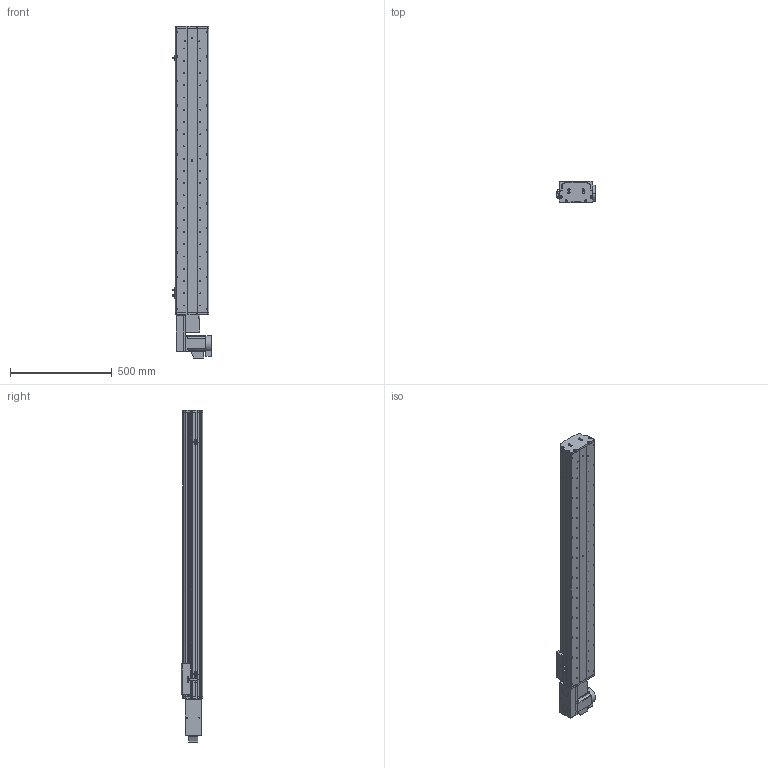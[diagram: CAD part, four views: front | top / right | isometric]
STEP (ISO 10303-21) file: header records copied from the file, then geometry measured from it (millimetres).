
FILE_DESCRIPTION (( 'STEP AP214' ), '1' );
FILE_NAME ('KSD165B-S1150-MLB-CM.STEP', '2017-10-16T06:25:47', ( '微软用户' ), ( '微软中国' ), 'SwSTEP 2.0', 'SolidWorks 2014', '' );
FILE_SCHEMA (( 'AUTOMOTIVE_DESIGN' ));
Length unit declared in the file: millimetre
Products named in the file (17): KSD165模组同步带-防撞垫1; KSD165耀郪-ヶ傷啣1-肮祭湍; KSD165模组-后端板1-同步带; KSD165模组-同步带滑动座-最新版; KSD165B-S1150-MLB-CM; HTPA26S5M250-A-H8 750W萇儂蚚; HTPA26S5M250-A-H8 400W萇儂蚚 ; 130宽模组马达安装板连板左右折同步带; 130宽模组保护罩上下左右折-同步带; 165宽马达安装板同步带左-改; KSD165模组-同步带防尘盖1-1150行程; KSD165模组同步带底板-1150行程; 拸秶雄ん750W侜督萇儂; U倰嫖萇假蚾璃; U倰嫖萇EEㄜSX672; 覜茼え68遵圉猾敕; KSD165模组-同步带-防撞垫2
Assembly tree (20 placements, depth 2):
  KSD165B-S1150-MLB-CM
    KSD165模组-同步带滑动座-最新版
    KSD165模组-后端板1-同步带
    KSD165耀郪-ヶ傷啣1-肮祭湍
    KSD165模组同步带-防撞垫1
    KSD165模组-同步带-防撞垫2
    覜茼え68遵圉猾敕
    U倰嫖萇EEㄜSX672  x3
    U倰嫖萇假蚾璃  x3
    拸秶雄ん750W侜督萇儂
    KSD165模组同步带底板-1150行程
    KSD165模组-同步带防尘盖1-1150行程
    165宽马达安装板同步带左-改
    130宽模组保护罩上下左右折-同步带
    130宽模组马达安装板连板左右折同步带
    HTPA26S5M250-A-H8 400W萇儂蚚 
    HTPA26S5M250-A-H8 750W萇儂蚚
Bounding box: 191.2 x 104 x 1628 mm (x, y, z)
Volume: 8594424.8 mm3; surface area: 2000664.3 mm2
Topology: 21 solids, 22 shells, 1997 faces, 5640 edges, 3684 vertices
Faces by surface type: cylinder 1293, plane 592, cone 112
Entity records: 65144 total; most frequent: CARTESIAN_POINT 13350, DIRECTION 10680, ORIENTED_EDGE 9940, EDGE_CURVE 4970, AXIS2_PLACEMENT_3D 4196, VERTEX_POINT 3276, CIRCLE 2396, LINE 2288
